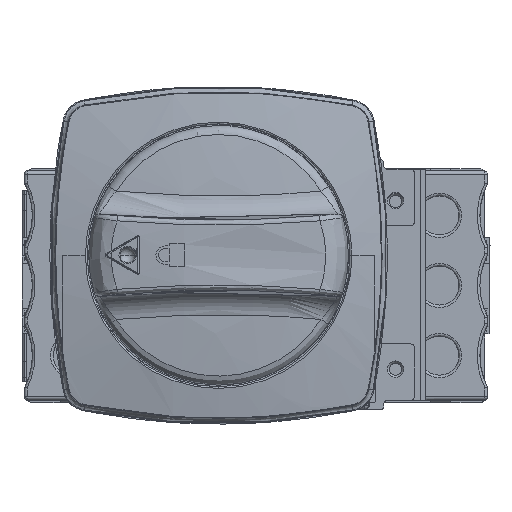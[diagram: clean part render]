
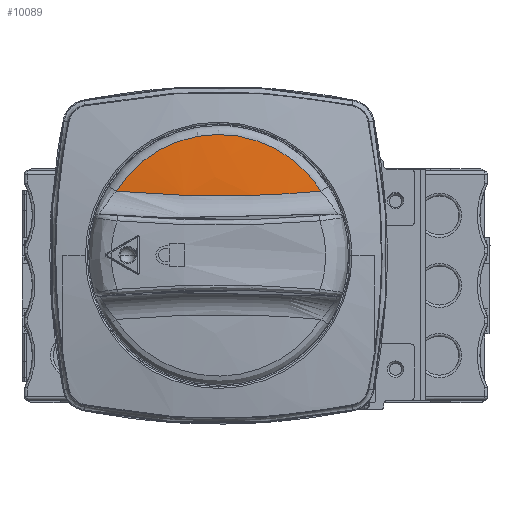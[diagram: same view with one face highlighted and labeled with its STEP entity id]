
A CAD part, top view. The second image highlights one B-rep face of the part: STEP entity #10089.
In plain terms, the highlighted spherical face has radius 182.053 mm.
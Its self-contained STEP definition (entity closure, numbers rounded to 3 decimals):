
#515=SPHERICAL_SURFACE('',#86075,182.053);
#1244=B_SPLINE_CURVE_WITH_KNOTS('',3,(#139813,#139814,#139815,#139816),
 .UNSPECIFIED.,.F.,.F.,(4,4),(0.,1.),.UNSPECIFIED.);
#1247=B_SPLINE_CURVE_WITH_KNOTS('',3,(#139937,#139938,#139939,#139940,#139941,
#139942,#139943,#139944,#139945,#139946),.UNSPECIFIED.,.F.,.F.,(4,2,2,2,
4),(0.,0.25,0.5,0.75,1.),.UNSPECIFIED.);
#5914=FACE_OUTER_BOUND('',#20136,.T.);
#10089=ADVANCED_FACE('',(#5914),#515,.T.);
#20136=EDGE_LOOP('',(#41581,#41582));
#41581=ORIENTED_EDGE('',*,*,#62297,.F.);
#41582=ORIENTED_EDGE('',*,*,#62300,.F.);
#51065=VERTEX_POINT('',#139694);
#51066=VERTEX_POINT('',#139817);
#62297=EDGE_CURVE('',#51065,#51066,#1244,.T.);
#62300=EDGE_CURVE('',#51066,#51065,#1247,.T.);
#86075=AXIS2_PLACEMENT_3D('',#139948,#105700,#105701);
#105700=DIRECTION('',(0.143,0.,0.99));
#105701=DIRECTION('',(-0.99,0.,0.143));
#139694=CARTESIAN_POINT('',(-75.092,-3733.249,242.368));
#139813=CARTESIAN_POINT('',(-75.092,-3733.25,242.368));
#139814=CARTESIAN_POINT('',(-88.136,-3734.458,243.875));
#139815=CARTESIAN_POINT('',(-101.464,-3734.458,243.875));
#139816=CARTESIAN_POINT('',(-114.508,-3733.25,242.368));
#139817=CARTESIAN_POINT('',(-114.508,-3733.25,242.369));
#139937=CARTESIAN_POINT('',(-114.509,-3733.25,242.371));
#139938=CARTESIAN_POINT('',(-112.428,-3729.928,242.37));
#139939=CARTESIAN_POINT('',(-109.493,-3727.147,242.369));
#139940=CARTESIAN_POINT('',(-102.635,-3723.35,242.367));
#139941=CARTESIAN_POINT('',(-98.72,-3722.339,242.366));
#139942=CARTESIAN_POINT('',(-90.881,-3722.339,242.365));
#139943=CARTESIAN_POINT('',(-86.966,-3723.35,242.365));
#139944=CARTESIAN_POINT('',(-80.108,-3727.147,242.366));
#139945=CARTESIAN_POINT('',(-77.173,-3729.928,242.367));
#139946=CARTESIAN_POINT('',(-75.092,-3733.25,242.368));
#139948=CARTESIAN_POINT('',(-94.801,-3745.594,61.807));
